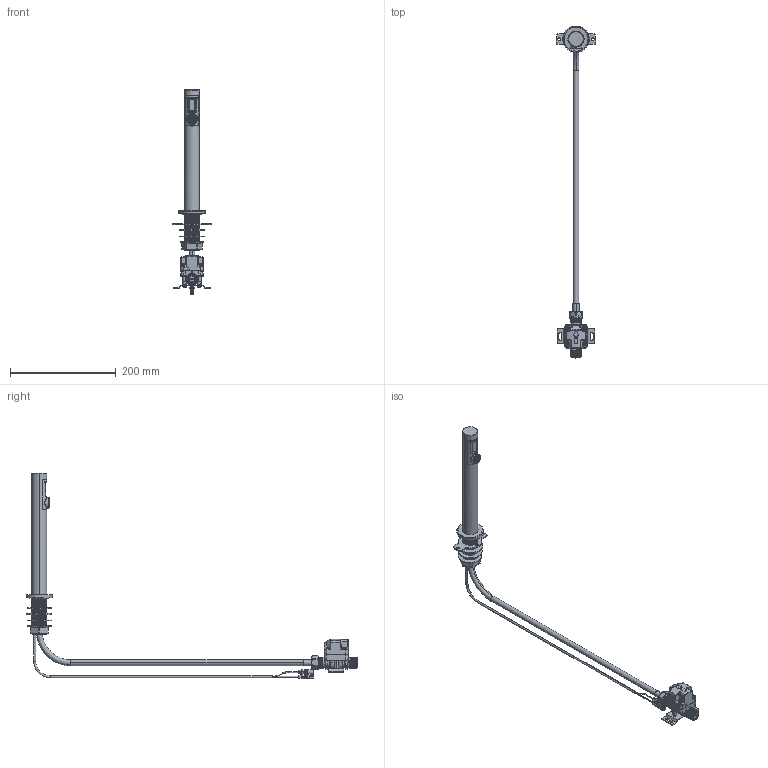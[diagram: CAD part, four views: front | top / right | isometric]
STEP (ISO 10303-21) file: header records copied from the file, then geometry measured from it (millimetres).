
FILE_DESCRIPTION (( 'STEP AP214' ), '1' );
FILE_NAME ('Lovair_Channel_水龍頭主體_20230725示意.STEP', '2023-07-25T00:41:39', ( '' ), ( '' ), 'SwSTEP 2.0', 'SolidWorks 2021', '' );
FILE_SCHEMA (( 'AUTOMOTIVE_DESIGN' ));
Length unit declared in the file: millimetre
Products named in the file (24): Lovair_Channel_水龍頭主體_20230725示意; 270-02; L0vair_28.6水龍頭橡膠墊片; 2464#26_pcb&感應器線組+公母頭_20200914示意; 101-32N; A0130-0002固定螺帽 CSD-11122122-A1; 鏡櫃式龍頭_電磁閥固定板-2_第2型; A0135-0012_Channel_水龍頭感應器膠殼; A0135-0013_Channel_水龍頭出水座; 302-40; sv270_電磁閥_20180302; C0334-0028_Channel_華司; 270-03; M4｡ﾑ8ﾁｳｵｷ_､Y､Q; G0234-0015_L0vair_28.6水龍頭本體橡膠; A0135-0014_Channel_水龍頭固定扣; 20230302_鎖環; L-800-D28_出風管飾板; 磁閥組加固定片; 起泡頭; 270-04; 270-01; 201906_白鐵編幟網90度_80CM; L0vair_28.6水龍頭主體_20230425設變
Assembly tree (33 placements, depth 4):
  Lovair_Channel_水龍頭主體_20230725示意
    L0vair_28.6水龍頭主體_20230425設變
    L-800-D28_出風管飾板
    G0234-0015_L0vair_28.6水龍頭本體橡膠
    A0135-0013_Channel_水龍頭出水座
    A0135-0012_Channel_水龍頭感應器膠殼
    A0135-0014_Channel_水龍頭固定扣
    起泡頭
    L0vair_28.6水龍頭橡膠墊片
    C0334-0028_Channel_華司
    A0130-0002固定螺帽 CSD-11122122-A1
    201906_白鐵編幟網90度_80CM
    2464#26_pcb&感應器線組+公母頭_20200914示意
    磁閥組加固定片
      sv270_電磁閥_20180302
        270-02
        302-40  x4
        270-01
        270-04
        101-32N  x4
        270-03  x4
      鏡櫃式龍頭_電磁閥固定板-2_第2型
      M4｡ﾑ8ﾁｳｵｷ_､Y､Q  x2
    20230302_鎖環
Bounding box: 74.97 x 629 x 389.05 mm (x, y, z)
Volume: 170284.8 mm3; surface area: 174284 mm2
Topology: 30 solids, 34 shells, 2663 faces, 7207 edges, 4578 vertices
Faces by surface type: cylinder 1103, plane 666, bspline 556, cone 214, torus 106, sphere 18
Entity records: 374100 total; most frequent: CARTESIAN_POINT 316434, ORIENTED_EDGE 13374, DIRECTION 10048, EDGE_CURVE 6695, VERTEX_POINT 4292, AXIS2_PLACEMENT_3D 3759, EDGE_LOOP 2794, LINE 2530
